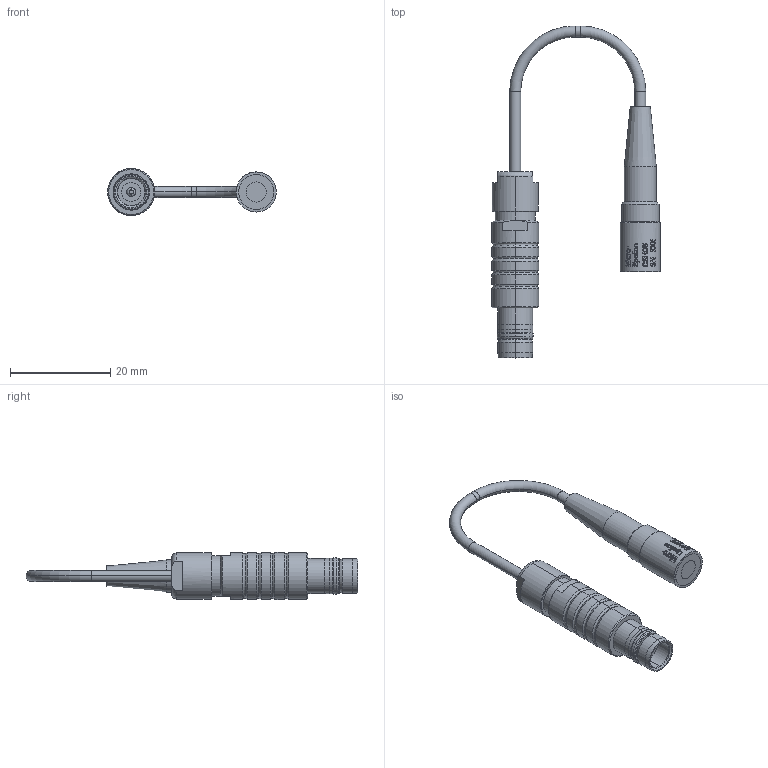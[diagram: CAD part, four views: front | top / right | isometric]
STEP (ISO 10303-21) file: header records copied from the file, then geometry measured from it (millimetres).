
FILE_DESCRIPTION((''),'2;1');
FILE_NAME('6610087-A_ASM','2009-07-29T',('11000065'),(''),'PRO/ENGINEER BY PARAMETRIC TECHNOLOGY CORPORATION, 2008490','PRO/ENGINEER BY PARAMETRIC TECHNOLOGY CORPORATION, 2008490','');
FILE_SCHEMA(('AUTOMOTIVE_DESIGN { 1 2 10303 214 0 1 1 1 }'));
Length unit declared in the file: millimetre
Products named in the file (3): 6610087-A; 0323139; 6610087-A_ASM
Assembly tree (2 placements, depth 2):
  6610087-A_ASM
    6610087-A
    0323139
Bounding box: 33.7 x 66.36 x 9.4 mm (x, y, z)
Volume: 3407.9 mm3; surface area: 2494.9 mm2
Topology: 2 solids, 2 shells, 816 faces, 2235 edges, 1466 vertices
Faces by surface type: plane 680, cylinder 76, cone 32, torus 26, bspline 2
Entity records: 33141 total; most frequent: CARTESIAN_POINT 6611, ORIENTED_EDGE 4470, DIRECTION 3257, PRESENTATION_STYLE_ASSIGNMENT 2286, STYLED_ITEM 2238, CURVE_STYLE 2235, EDGE_CURVE 2235, VERTEX_POINT 1466
